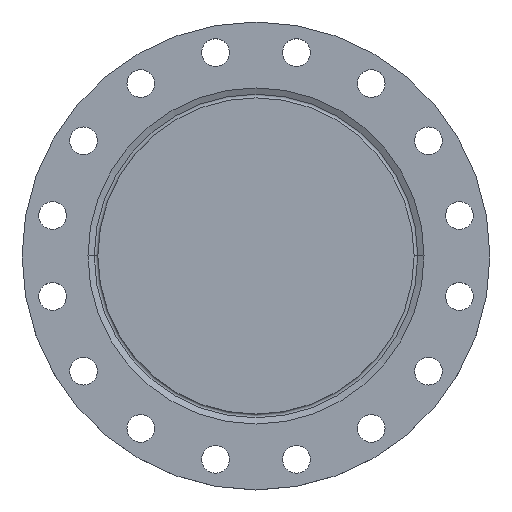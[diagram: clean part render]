
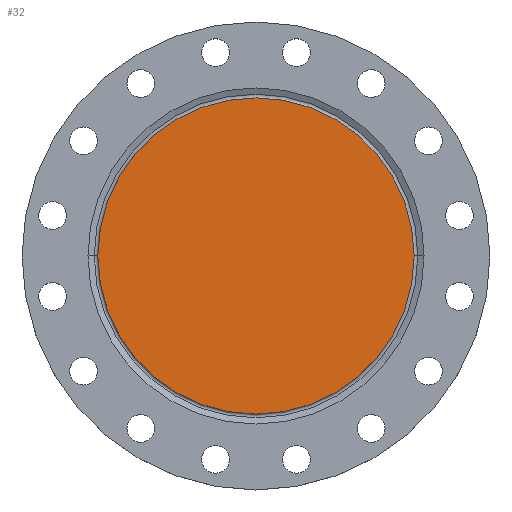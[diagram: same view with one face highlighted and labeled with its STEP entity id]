
A CAD part, top view. The second image highlights one B-rep face of the part: STEP entity #32.
In plain terms, the highlighted planar face has unit normal (0, 0, 1).
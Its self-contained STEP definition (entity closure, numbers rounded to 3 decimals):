
#32 = ADVANCED_FACE ( 'NONE', ( #1003 ), #1002, .T. ) ;
#33 = CARTESIAN_POINT ( 'NONE',  ( 223., 0., 0. ) ) ;
#85 = EDGE_CURVE ( 'NONE', #1634, #1058, #1307, .T. ) ;
#112 = AXIS2_PLACEMENT_3D ( 'NONE', #1001, #998, #997 ) ;
#151 = DIRECTION ( 'NONE',  ( 0., 0., -1. ) ) ;
#152 = DIRECTION ( 'NONE',  ( -1., 0., 0. ) ) ;
#156 = CARTESIAN_POINT ( 'NONE',  ( 0., 0., 0. ) ) ;
#192 = AXIS2_PLACEMENT_3D ( 'NONE', #988, #987, #986 ) ;
#518 = CARTESIAN_POINT ( 'NONE',  ( -223., 0., 0. ) ) ;
#697 = CIRCLE ( 'NONE', #707, 223. ) ;
#707 = AXIS2_PLACEMENT_3D ( 'NONE', #156, #151, #152 ) ;
#986 = DIRECTION ( 'NONE',  ( -1., 0., 0. ) ) ;
#987 = DIRECTION ( 'NONE',  ( 0., 0., -1. ) ) ;
#988 = CARTESIAN_POINT ( 'NONE',  ( 0., 0., 0. ) ) ;
#997 = DIRECTION ( 'NONE',  ( 1., 0., 0. ) ) ;
#998 = DIRECTION ( 'NONE',  ( 0., 0., 1. ) ) ;
#1001 = CARTESIAN_POINT ( 'NONE',  ( 0., 0., 0. ) ) ;
#1002 = PLANE ( 'NONE',  #112 ) ;
#1003 = FACE_OUTER_BOUND ( 'NONE', #1068, .T. ) ;
#1058 = VERTEX_POINT ( 'NONE', #518 ) ;
#1068 = EDGE_LOOP ( 'NONE', ( #1489, #1490 ) ) ;
#1307 = CIRCLE ( 'NONE', #192, 223. ) ;
#1489 = ORIENTED_EDGE ( 'NONE', *, *, #1590, .F. ) ;
#1490 = ORIENTED_EDGE ( 'NONE', *, *, #85, .F. ) ;
#1590 = EDGE_CURVE ( 'NONE', #1058, #1634, #697, .T. ) ;
#1634 = VERTEX_POINT ( 'NONE', #33 ) ;
